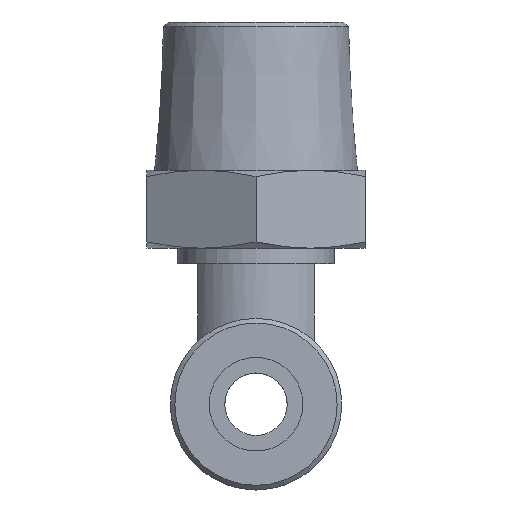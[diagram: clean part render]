
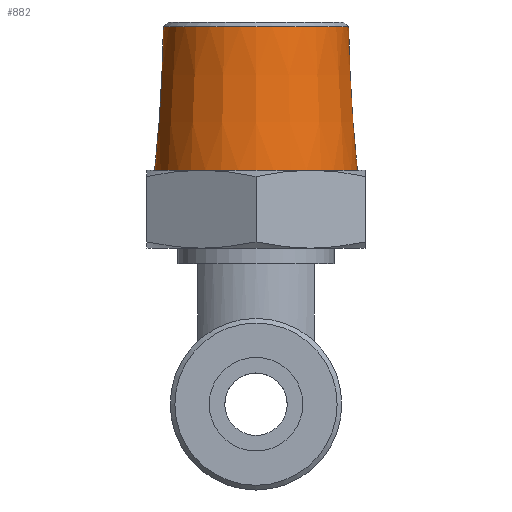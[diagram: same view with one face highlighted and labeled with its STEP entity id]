
A CAD part, front view. The second image highlights one B-rep face of the part: STEP entity #882.
In plain terms, the highlighted conical face has half-angle 3.5 degrees and reference radius 6.21 mm.
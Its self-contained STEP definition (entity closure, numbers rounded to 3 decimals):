
#78=CONICAL_SURFACE('',#973,6.209,0.061);
#97=FACE_OUTER_BOUND('',#159,.T.);
#159=EDGE_LOOP('',(#606,#607,#608,#609,#610));
#237=LINE('',#1415,#279);
#279=VECTOR('',#1116,6.209);
#321=CIRCLE('',#971,5.937);
#322=CIRCLE('',#972,5.937);
#323=CIRCLE('',#974,6.5);
#386=VERTEX_POINT('',#1408);
#387=VERTEX_POINT('',#1410);
#388=VERTEX_POINT('',#1414);
#469=EDGE_CURVE('',#386,#387,#321,.T.);
#470=EDGE_CURVE('',#387,#386,#322,.T.);
#471=EDGE_CURVE('',#387,#388,#237,.T.);
#472=EDGE_CURVE('',#388,#388,#323,.T.);
#606=ORIENTED_EDGE('',*,*,#469,.F.);
#607=ORIENTED_EDGE('',*,*,#470,.F.);
#608=ORIENTED_EDGE('',*,*,#471,.T.);
#609=ORIENTED_EDGE('',*,*,#472,.F.);
#610=ORIENTED_EDGE('',*,*,#471,.F.);
#882=ADVANCED_FACE('',(#97),#78,.T.);
#971=AXIS2_PLACEMENT_3D('',#1411,#1110,#1111);
#972=AXIS2_PLACEMENT_3D('',#1412,#1112,#1113);
#973=AXIS2_PLACEMENT_3D('',#1413,#1114,#1115);
#974=AXIS2_PLACEMENT_3D('',#1416,#1117,#1118);
#1110=DIRECTION('center_axis',(0.,0.,1.));
#1111=DIRECTION('ref_axis',(0.,-1.,0.));
#1112=DIRECTION('center_axis',(0.,0.,1.));
#1113=DIRECTION('ref_axis',(0.,-1.,0.));
#1114=DIRECTION('center_axis',(0.,0.,-1.));
#1115=DIRECTION('ref_axis',(0.,1.,0.));
#1116=DIRECTION('',(0.,-0.061,-0.998));
#1117=DIRECTION('center_axis',(0.,0.,-1.));
#1118=DIRECTION('ref_axis',(0.,1.,0.));
#1408=CARTESIAN_POINT('',(0.,5.937,24.201));
#1410=CARTESIAN_POINT('',(0.,-5.937,24.201));
#1411=CARTESIAN_POINT('Origin',(0.,0.,24.201));
#1412=CARTESIAN_POINT('Origin',(0.,0.,24.201));
#1413=CARTESIAN_POINT('Origin',(0.,0.,19.75));
#1414=CARTESIAN_POINT('',(0.,-6.5,15.));
#1415=CARTESIAN_POINT('',(0.,-6.209,19.75));
#1416=CARTESIAN_POINT('Origin',(0.,0.,15.));
